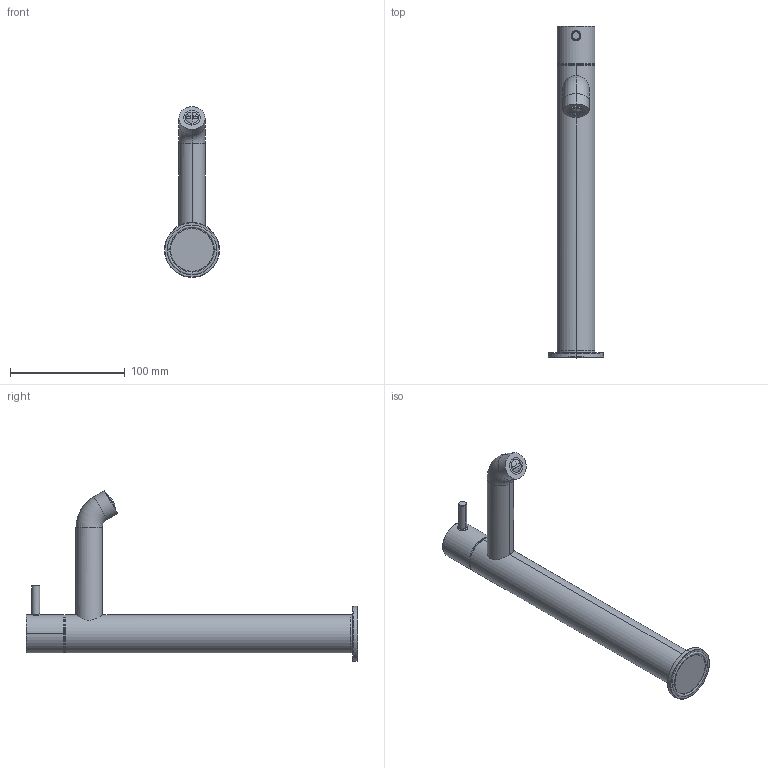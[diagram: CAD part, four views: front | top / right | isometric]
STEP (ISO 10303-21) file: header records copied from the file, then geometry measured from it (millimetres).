
FILE_DESCRIPTION((''),'2;1');
FILE_NAME('48870--00_SUB01_SW0001','2026-09-09T11:40:05',('clra1'),(''),'CREO PARAMETRIC BY PTC INC, 2022244','CREO PARAMETRIC BY PTC INC, 2022244','');
FILE_SCHEMA(('CONFIG_CONTROL_DESIGN'));
Length unit declared in the file: millimetre
Products named in the file (1): 48870--00_SUB01_SW0001
Bounding box: 48 x 289.5 x 148.96 mm (x, y, z)
Surface area: 45372.4 mm2 (no closed solid volume)
Topology: 0 solids, 11 shells, 50 faces, 111 edges, 68 vertices
Faces by surface type: torus 18, cylinder 18, plane 10, bspline 2, sphere 2
Entity records: 1650 total; most frequent: CARTESIAN_POINT 485, DIRECTION 281, ORIENTED_EDGE 192, AXIS2_PLACEMENT_3D 130, EDGE_CURVE 111, CIRCLE 82, VERTEX_POINT 68, EDGE_LOOP 50
